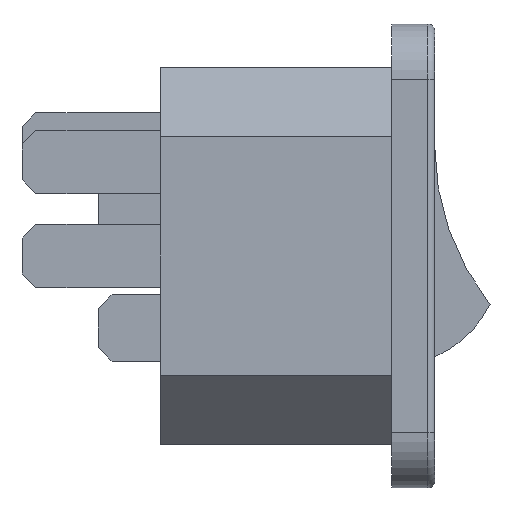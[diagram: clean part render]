
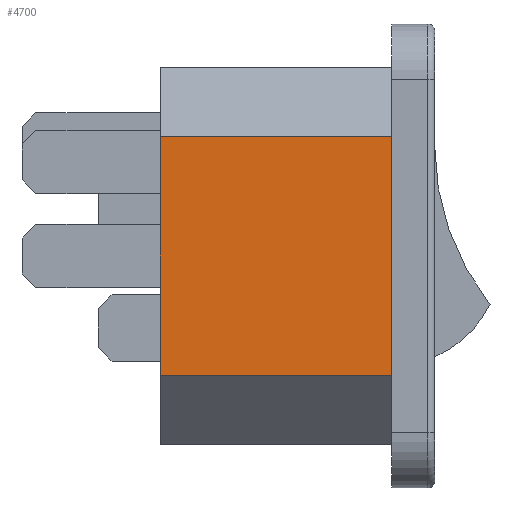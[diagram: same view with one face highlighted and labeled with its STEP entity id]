
A CAD part, front view. The second image highlights one B-rep face of the part: STEP entity #4700.
In plain terms, the highlighted planar face has unit normal (0, -1, 0).
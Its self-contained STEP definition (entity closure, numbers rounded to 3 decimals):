
#361 = VERTEX_POINT ( 'NONE', #2155 ) ;
#394 = VERTEX_POINT ( 'NONE', #2121 ) ;
#402 = VERTEX_POINT ( 'NONE', #2128 ) ;
#417 = VERTEX_POINT ( 'NONE', #2142 ) ;
#724 = AXIS2_PLACEMENT_3D ( 'NONE', #1540, #1533, #1505 ) ;
#1192 = EDGE_CURVE ( 'NONE', #417, #394, #2906, .T. ) ;
#1193 = EDGE_CURVE ( 'NONE', #402, #394, #2904, .T. ) ;
#1223 = EDGE_CURVE ( 'NONE', #361, #417, #2586, .T. ) ;
#1241 = EDGE_CURVE ( 'NONE', #361, #402, #2631, .T. ) ;
#1505 = DIRECTION ( 'NONE',  ( 0., 0., -1. ) ) ;
#1525 = PLANE ( 'NONE',  #724 ) ;
#1533 = DIRECTION ( 'NONE',  ( 0., -1., 0. ) ) ;
#1540 = CARTESIAN_POINT ( 'NONE',  ( -16.7, -23.6, 8.6 ) ) ;
#2121 = CARTESIAN_POINT ( 'NONE',  ( 0., -23.6, -8.6 ) ) ;
#2128 = CARTESIAN_POINT ( 'NONE',  ( 0., -23.6, 8.6 ) ) ;
#2142 = CARTESIAN_POINT ( 'NONE',  ( -16.7, -23.6, -8.6 ) ) ;
#2155 = CARTESIAN_POINT ( 'NONE',  ( -16.7, -23.6, 8.6 ) ) ;
#2390 = FACE_OUTER_BOUND ( 'NONE', #4472, .T. ) ;
#2586 = LINE ( 'NONE', #5359, #2588 ) ;
#2588 = VECTOR ( 'NONE', #5393, 1000. ) ;
#2631 = LINE ( 'NONE', #5502, #2633 ) ;
#2633 = VECTOR ( 'NONE', #5587, 1000. ) ;
#2903 = VECTOR ( 'NONE', #5579, 1000. ) ;
#2904 = LINE ( 'NONE', #5504, #2903 ) ;
#2905 = VECTOR ( 'NONE', #5465, 1000. ) ;
#2906 = LINE ( 'NONE', #5468, #2905 ) ;
#3663 = ORIENTED_EDGE ( 'NONE', *, *, #1193, .F. ) ;
#3664 = ORIENTED_EDGE ( 'NONE', *, *, #1241, .F. ) ;
#3665 = ORIENTED_EDGE ( 'NONE', *, *, #1223, .T. ) ;
#3666 = ORIENTED_EDGE ( 'NONE', *, *, #1192, .T. ) ;
#4472 = EDGE_LOOP ( 'NONE', ( #3663, #3664, #3665, #3666 ) ) ;
#4700 = ADVANCED_FACE ( 'NONE', ( #2390 ), #1525, .T. ) ;
#5359 = CARTESIAN_POINT ( 'NONE',  ( -16.7, -23.6, 8.6 ) ) ;
#5393 = DIRECTION ( 'NONE',  ( 0., 0., -1. ) ) ;
#5465 = DIRECTION ( 'NONE',  ( 1., 0., 0. ) ) ;
#5468 = CARTESIAN_POINT ( 'NONE',  ( -16.7, -23.6, -8.6 ) ) ;
#5502 = CARTESIAN_POINT ( 'NONE',  ( -16.7, -23.6, 8.6 ) ) ;
#5504 = CARTESIAN_POINT ( 'NONE',  ( 0., -23.6, 8.6 ) ) ;
#5579 = DIRECTION ( 'NONE',  ( 0., 0., -1. ) ) ;
#5587 = DIRECTION ( 'NONE',  ( 1., 0., 0. ) ) ;
